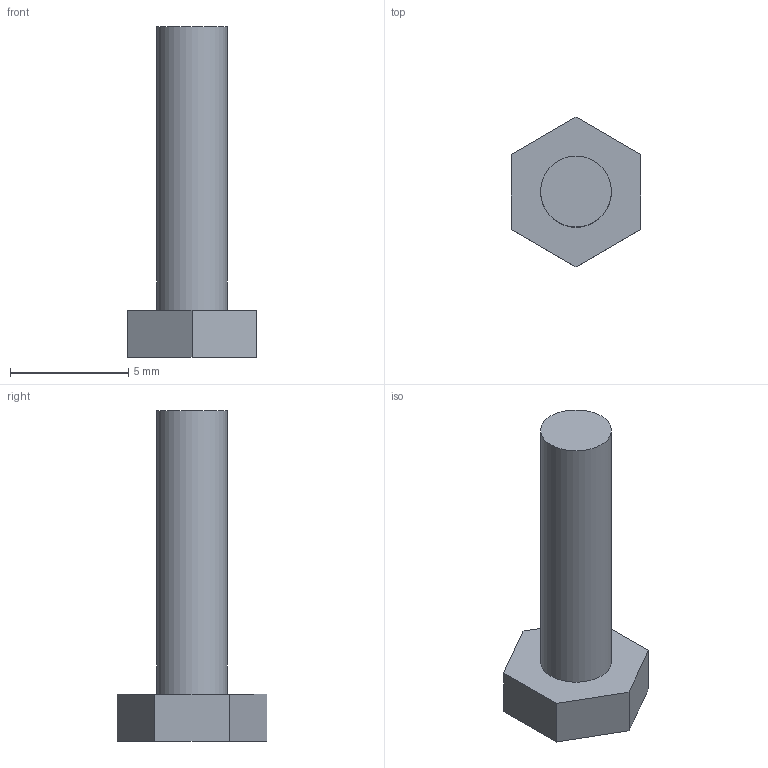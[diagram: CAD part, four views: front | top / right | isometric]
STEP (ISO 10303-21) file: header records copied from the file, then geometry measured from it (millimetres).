
FILE_DESCRIPTION(('Open CASCADE Model'),'2;1');
FILE_NAME('28_Bolt_M3x12_8','2026-10-20T19:44:39',('Author'),( 'Open CASCADE'),'Open CASCADE STEP processor 8.0','build123d', 'Unknown');
FILE_SCHEMA(('AUTOMOTIVE_DESIGN { 1 0 10303 214 1 1 1 1 }'));
Length unit declared in the file: millimetre
Products named in the file (2): 28_Bolt_M3x12_8
Assembly tree (1 placements, depth 2):
  28_Bolt_M3x12_8
    28_Bolt_M3x12_8
Bounding box: 5.5 x 6.35 x 14 mm (x, y, z)
Volume: 137.2 mm3; surface area: 203.6 mm2
Topology: 1 solids, 1 shells, 10 faces, 21 edges, 14 vertices
Faces by surface type: plane 9, cylinder 1
Full cylindrical faces by diameter (mm): 3 x1
Entity records: 592 total; most frequent: CARTESIAN_POINT 89, DIRECTION 89, LINE 59, VECTOR 59, ORIENTED_EDGE 42, PCURVE 42, DEFINITIONAL_REPRESENTATION 42, EDGE_CURVE 21
